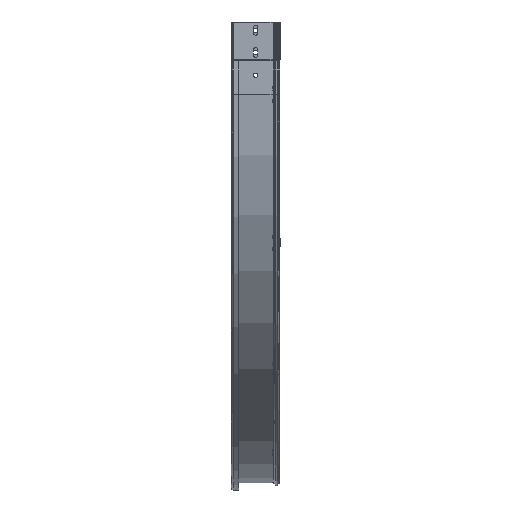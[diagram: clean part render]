
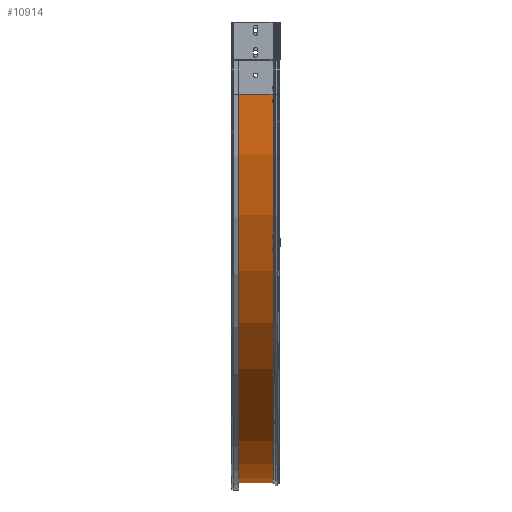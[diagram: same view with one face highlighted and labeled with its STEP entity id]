
A CAD part, left-side view. The second image highlights one B-rep face of the part: STEP entity #10914.
In plain terms, the highlighted cylindrical face has radius 801.5 mm (diameter 1603 mm), a partial arc.
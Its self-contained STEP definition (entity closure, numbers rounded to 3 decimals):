
#38 = DIRECTION ( 'NONE',  ( 0., 0., 1. ) ) ;
#228 = DIRECTION ( 'NONE',  ( 0., 1., 0. ) ) ;
#537 = AXIS2_PLACEMENT_3D ( 'NONE', #6918, #6987, #2056 ) ;
#581 = CIRCLE ( 'NONE', #1853, 801.5 ) ;
#996 = CARTESIAN_POINT ( 'NONE',  ( -1.5, 96., -150. ) ) ;
#1381 = EDGE_CURVE ( 'NONE', #1672, #2589, #8523, .T. ) ;
#1441 = CARTESIAN_POINT ( 'NONE',  ( 800., 14.067, -951.5 ) ) ;
#1457 = VECTOR ( 'NONE', #10787, 1000. ) ;
#1672 = VERTEX_POINT ( 'NONE', #996 ) ;
#1853 = AXIS2_PLACEMENT_3D ( 'NONE', #3163, #228, #38 ) ;
#2056 = DIRECTION ( 'NONE',  ( 0., 0., 1. ) ) ;
#2121 = ORIENTED_EDGE ( 'NONE', *, *, #13138, .F. ) ;
#2586 = FACE_OUTER_BOUND ( 'NONE', #8135, .T. ) ;
#2589 = VERTEX_POINT ( 'NONE', #12727 ) ;
#3087 = AXIS2_PLACEMENT_3D ( 'NONE', #4716, #3453, #11761 ) ;
#3163 = CARTESIAN_POINT ( 'NONE',  ( 800., 14.067, -150. ) ) ;
#3453 = DIRECTION ( 'NONE',  ( 0., 1., 0. ) ) ;
#4455 = CYLINDRICAL_SURFACE ( 'NONE', #3087, 801.5 ) ;
#4716 = CARTESIAN_POINT ( 'NONE',  ( 800., 0., -150. ) ) ;
#4730 = LINE ( 'NONE', #6527, #1457 ) ;
#5640 = CIRCLE ( 'NONE', #537, 801.5 ) ;
#5880 = ORIENTED_EDGE ( 'NONE', *, *, #12782, .T. ) ;
#6527 = CARTESIAN_POINT ( 'NONE',  ( 800., 14.067, -951.5 ) ) ;
#6918 = CARTESIAN_POINT ( 'NONE',  ( 800., 96., -150. ) ) ;
#6935 = CARTESIAN_POINT ( 'NONE',  ( 800., 96., -951.5 ) ) ;
#6987 = DIRECTION ( 'NONE',  ( 0., 1., 0. ) ) ;
#8135 = EDGE_LOOP ( 'NONE', ( #8298, #2121, #5880, #13168 ) ) ;
#8298 = ORIENTED_EDGE ( 'NONE', *, *, #10589, .F. ) ;
#8390 = DIRECTION ( 'NONE',  ( 0., -1., 0. ) ) ;
#8523 = LINE ( 'NONE', #9587, #8526 ) ;
#8526 = VECTOR ( 'NONE', #8390, 1000. ) ;
#9459 = VERTEX_POINT ( 'NONE', #1441 ) ;
#9587 = CARTESIAN_POINT ( 'NONE',  ( -1.5, 14.067, -150. ) ) ;
#10589 = EDGE_CURVE ( 'NONE', #11534, #1672, #5640, .T. ) ;
#10787 = DIRECTION ( 'NONE',  ( 0., 1., 0. ) ) ;
#10914 = ADVANCED_FACE ( 'NONE', ( #2586 ), #4455, .T. ) ;
#11534 = VERTEX_POINT ( 'NONE', #6935 ) ;
#11761 = DIRECTION ( 'NONE',  ( 0., 0., 1. ) ) ;
#12727 = CARTESIAN_POINT ( 'NONE',  ( -1.5, 14.067, -150. ) ) ;
#12782 = EDGE_CURVE ( 'NONE', #9459, #2589, #581, .T. ) ;
#13138 = EDGE_CURVE ( 'NONE', #9459, #11534, #4730, .T. ) ;
#13168 = ORIENTED_EDGE ( 'NONE', *, *, #1381, .F. ) ;
